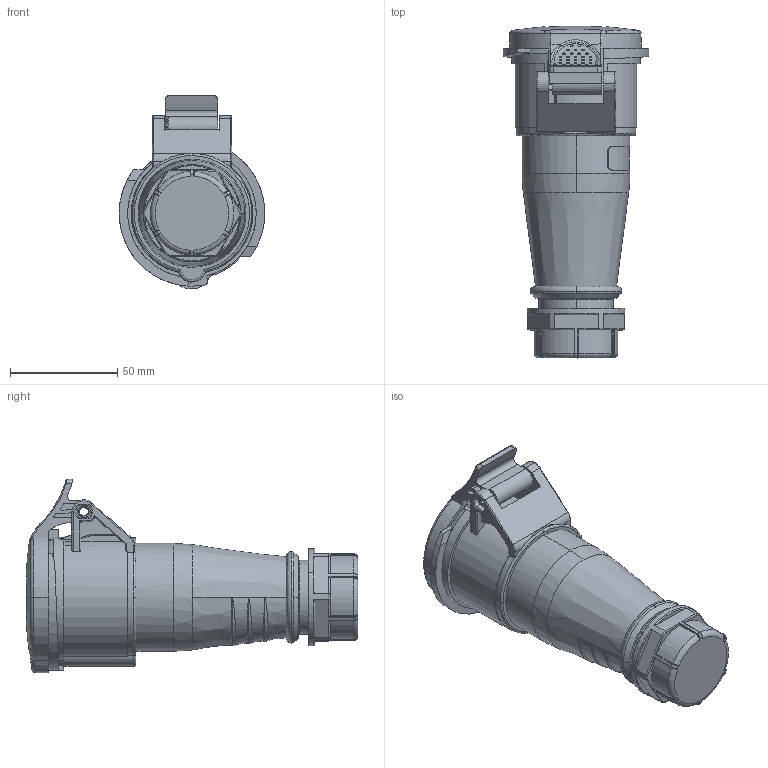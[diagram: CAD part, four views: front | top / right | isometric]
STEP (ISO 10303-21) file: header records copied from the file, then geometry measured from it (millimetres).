
FILE_DESCRIPTION (( 'STEP AP203' ), '1' );
FILE_NAME ('DIS3131646 (CS 4p 16ﾀ 400ﾂ IP44).STEP', '2024-08-13T10:16:44', ( '' ), ( '' ), 'SwSTEP 2.0', 'SolidWorks 2022', '' );
FILE_SCHEMA (( 'CONFIG_CONTROL_DESIGN' ));
Length unit declared in the file: millimetre
Products named in the file (1): DIS3131646 (CS 4p 16А 400В IP44)
Bounding box: 67.79 x 154.44 x 89.86 mm (x, y, z)
Volume: 297672.6 mm3; surface area: 42074.1 mm2
Topology: 3 solids, 3 shells, 495 faces, 1313 edges, 852 vertices
Faces by surface type: cylinder 185, plane 142, torus 81, bspline 69, cone 18
Entity records: 23284 total; most frequent: CARTESIAN_POINT 12056, ORIENTED_EDGE 2614, DIRECTION 1929, EDGE_CURVE 1307, VERTEX_POINT 852, AXIS2_PLACEMENT_3D 769, B_SPLINE_CURVE_WITH_KNOTS 547, EDGE_LOOP 539
